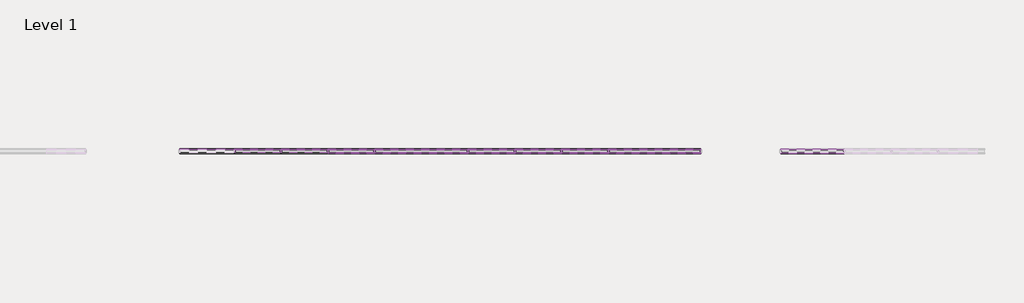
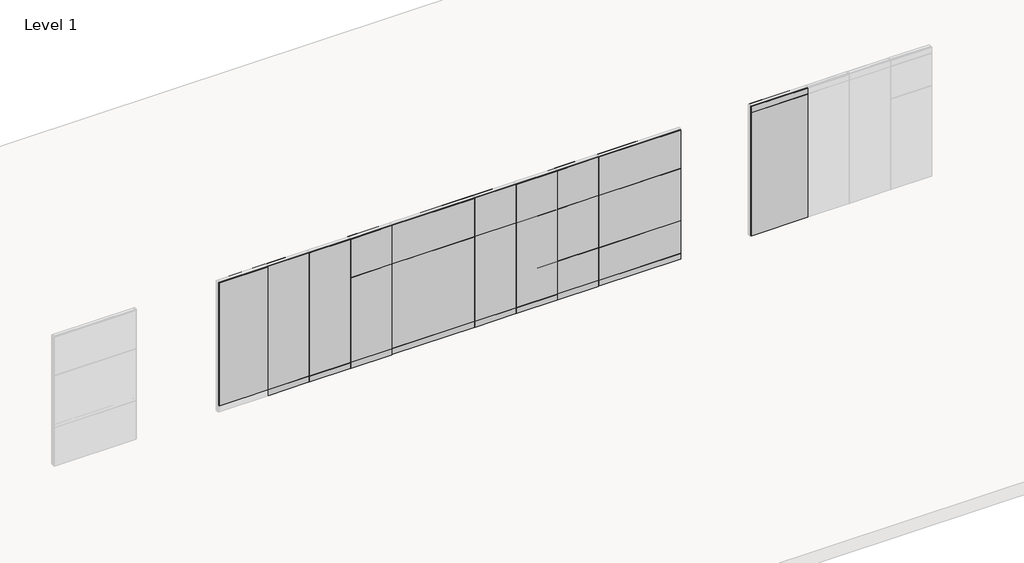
# One storey, part 7 of 22: 106 proxies.
"""IFC4 building model written with IfcOpenShell, lengths in millimetres."""

from ifc_helpers import new_model, si_unit, origin, place, context, project, spatial, transform, mapped, element, save
from components import fascia_teknion_ceiling_and_base_fpb1_658eb9e8, fascia_teknion_ceiling_and_base_fpb1_6ffdd3c4, fascia_teknion_ceiling_and_base_fpb1_e3dcadc1, fascia_teknion_ceiling_and_base_fpb1_b7746e3f, fascia_teknion_ceiling_and_base_fpb1_8b0997c1, fascia_teknion_ceiling_and_base_fpb1_fca0640a, fascia_teknion_ceiling_and_base_fpb1_086ac043, fascia_teknion_ceiling_and_base_fpc_82e6e8aa, fascia_teknion_ceiling_and_base_fpb1_29265a3b, frame_teknion_horizontal_rail_46ee653b, frame_teknion_horizontal_rail_3334b302, frame_teknion_horizontal_rail_5dd37d62, frame_teknion_horizontal_rail_fbfe6c54, frame_teknion_horizontal_rail_cc39d483, full_f94a2816, full_178b5045, level_i_a4eb09b2, level_i_215115a4, level_ii_5838736d, level_ii_c8f04d20, level_ii_2f074b98, level_ii_82d1d981, level_iii_7086e34a, level_iii_17d9b208, monolithic_level_i_c3871bc0, monolithic_level_i_604a00d2, monolithic_level_i_117a5531, segmented_level_i_b619f2b0, segmented_level_i_812e5143, segmented_level_ii_95ed46a7, segmented_monolithic_level_i_a660c2bd, segmented_monolithic_level_i_ac18bccb, segmented_monolithic_level_ii_ef75357c, segmented_monolithic_level_ii_36634c45, working_wall_monolithic_level_i_588f7e64, working_wall_monolithic_level_i_2cfe2bff, working_wall_monolithic_level_iii_599cdcd6

model = new_model("IFC4")

# Units and contexts
model_context = context("Model", 3, world=origin())
ifc_project = project(units=[si_unit("LENGTHUNIT", "METRE", prefix="MILLI")], contexts=[model_context])

# Site, building, storey
site = spatial("IfcSite", under=ifc_project)
building = spatial("IfcBuilding", under=site)
storey = spatial("IfcBuildingStorey", under=building, Name="Level 1", Elevation=0.0)

# Proxies
placement = place(None, origin())
fascia_teknion_ceiling_and_base_fpb1_shape = fascia_teknion_ceiling_and_base_fpb1_658eb9e8(model_context)
element("IfcBuildingElementProxy", 1, Name="Fascia-Teknion-Ceiling_and_Base : FPB1", ObjectType="Fascia-Teknion-Ceiling_and_Base : FPB1", at=placement, inside=storey, context=model_context, shape_type="MappedRepresentation", body=[
    mapped(fascia_teknion_ceiling_and_base_fpb1_shape, transform((-74729.1687444, 1781.3642105, 15.875), x_axis=(1.0, 0.0, 0.0), y_axis=(0.0, 1.0, 0.0), z_axis=(0.0, 0.0, 1.0))),
])
element("IfcBuildingElementProxy", 2, Name="Fascia-Teknion-Ceiling_and_Base : FPB1", ObjectType="Fascia-Teknion-Ceiling_and_Base : FPB1", at=placement, inside=storey, context=model_context, shape_type="MappedRepresentation", body=[
    mapped(fascia_teknion_ceiling_and_base_fpb1_shape, transform((-73814.7687444, 1781.3642105, 15.875), x_axis=(1.0, 0.0, 0.0), y_axis=(0.0, 1.0, 0.0), z_axis=(0.0, 0.0, 1.0))),
])
element("IfcBuildingElementProxy", 3, Name="Fascia-Teknion-Ceiling_and_Base : FPB1", ObjectType="Fascia-Teknion-Ceiling_and_Base : FPB1", at=placement, inside=storey, context=model_context, shape_type="MappedRepresentation", body=[
    mapped(fascia_teknion_ceiling_and_base_fpb1_shape, transform((-72900.3687444, 1781.3642105, 15.875), x_axis=(1.0, 0.0, 0.0), y_axis=(0.0, 1.0, 0.0), z_axis=(0.0, 0.0, 1.0))),
])
element("IfcBuildingElementProxy", 4, Name="Fascia-Teknion-Ceiling_and_Base : FPB1", ObjectType="Fascia-Teknion-Ceiling_and_Base : FPB1", at=placement, inside=storey, context=model_context, shape_type="MappedRepresentation", body=[
    mapped(fascia_teknion_ceiling_and_base_fpb1_shape, transform((-70157.1687444, 1781.3642105, 15.875), x_axis=(1.0, 0.0, 0.0), y_axis=(0.0, 1.0, 0.0), z_axis=(0.0, 0.0, 1.0))),
])
element("IfcBuildingElementProxy", 5, Name="Fascia-Teknion-Ceiling_and_Base : FPB1", ObjectType="Fascia-Teknion-Ceiling_and_Base : FPB1", at=placement, inside=storey, context=model_context, shape_type="MappedRepresentation", body=[
    mapped(fascia_teknion_ceiling_and_base_fpb1_shape, transform((-69242.7687444, 1781.3642105, 15.875), x_axis=(1.0, 0.0, 0.0), y_axis=(0.0, 1.0, 0.0), z_axis=(0.0, 0.0, 1.0))),
])
element("IfcBuildingElementProxy", 6, Name="Fascia-Teknion-Ceiling_and_Base : FPB1", ObjectType="Fascia-Teknion-Ceiling_and_Base : FPB1", at=placement, inside=storey, context=model_context, shape_type="MappedRepresentation", body=[
    mapped(fascia_teknion_ceiling_and_base_fpb1_shape, transform((-68328.3687444, 1781.3642105, 15.875), x_axis=(1.0, 0.0, 0.0), y_axis=(0.0, 1.0, 0.0), z_axis=(0.0, 0.0, 1.0))),
])
fascia_teknion_ceiling_and_base_fpb1_2_shape = fascia_teknion_ceiling_and_base_fpb1_6ffdd3c4(model_context)
element("IfcBuildingElementProxy", 7, Name="Fascia-Teknion-Ceiling_and_Base : FPB1", ObjectType="Fascia-Teknion-Ceiling_and_Base : FPB1", at=placement, inside=storey, context=model_context, shape_type="MappedRepresentation", body=[
    mapped(fascia_teknion_ceiling_and_base_fpb1_2_shape, transform((-71528.7687444, 1781.3642105, 15.875), x_axis=(1.0, 0.0, 0.0), y_axis=(0.0, 1.0, 0.0), z_axis=(0.0, 0.0, 1.0))),
])
fascia_teknion_ceiling_and_base_fpb1_3_shape = fascia_teknion_ceiling_and_base_fpb1_e3dcadc1(model_context)
element("IfcBuildingElementProxy", 8, Name="Fascia-Teknion-Ceiling_and_Base : FPB1", ObjectType="Fascia-Teknion-Ceiling_and_Base : FPB1", at=placement, inside=storey, context=model_context, shape_type="MappedRepresentation", body=[
    mapped(fascia_teknion_ceiling_and_base_fpb1_3_shape, transform((-66963.7636663, 1781.3642105, 15.875), x_axis=(1.0, 0.0, 0.0), y_axis=(0.0, 1.0, 0.0), z_axis=(0.0, 0.0, 1.0))),
])
fascia_teknion_ceiling_and_base_fpb1_4_shape = fascia_teknion_ceiling_and_base_fpb1_b7746e3f(model_context)
element("IfcBuildingElementProxy", 9, Name="Fascia-Teknion-Ceiling_and_Base : FPB1", ObjectType="Fascia-Teknion-Ceiling_and_Base : FPB1", at=placement, inside=storey, context=model_context, shape_type="MappedRepresentation", body=[
    mapped(fascia_teknion_ceiling_and_base_fpb1_4_shape, transform((-66963.7636663, 1843.3402105, 15.875), x_axis=(1.0, 0.0, 0.0), y_axis=(0.0, 1.0, 0.0), z_axis=(0.0, 0.0, 1.0))),
])
fascia_teknion_ceiling_and_base_fpb1_5_shape = fascia_teknion_ceiling_and_base_fpb1_8b0997c1(model_context)
element("IfcBuildingElementProxy", 10, Name="Fascia-Teknion-Ceiling_and_Base : FPB1", ObjectType="Fascia-Teknion-Ceiling_and_Base : FPB1", at=placement, inside=storey, context=model_context, shape_type="MappedRepresentation", body=[
    mapped(fascia_teknion_ceiling_and_base_fpb1_5_shape, transform((-63876.3738225, 1843.3402105, 15.875), x_axis=(1.0, 0.0, 0.0), y_axis=(0.0, 1.0, 0.0), z_axis=(0.0, 0.0, 1.0))),
])
fascia_teknion_ceiling_and_base_fpb1_6_shape = fascia_teknion_ceiling_and_base_fpb1_fca0640a(model_context)
element("IfcBuildingElementProxy", 11, Name="Fascia-Teknion-Ceiling_and_Base : FPB1", ObjectType="Fascia-Teknion-Ceiling_and_Base : FPB1", at=placement, inside=storey, context=model_context, shape_type="MappedRepresentation", body=[
    mapped(fascia_teknion_ceiling_and_base_fpb1_6_shape, transform((-73814.7687444, 1843.3402105, 15.875), x_axis=(1.0, 0.0, 0.0), y_axis=(0.0, 1.0, 0.0), z_axis=(0.0, 0.0, 1.0))),
])
element("IfcBuildingElementProxy", 12, Name="Fascia-Teknion-Ceiling_and_Base : FPB1", ObjectType="Fascia-Teknion-Ceiling_and_Base : FPB1", at=placement, inside=storey, context=model_context, shape_type="MappedRepresentation", body=[
    mapped(fascia_teknion_ceiling_and_base_fpb1_6_shape, transform((-72900.3687444, 1843.3402105, 15.875), x_axis=(1.0, 0.0, 0.0), y_axis=(0.0, 1.0, 0.0), z_axis=(0.0, 0.0, 1.0))),
])
element("IfcBuildingElementProxy", 13, Name="Fascia-Teknion-Ceiling_and_Base : FPB1", ObjectType="Fascia-Teknion-Ceiling_and_Base : FPB1", at=placement, inside=storey, context=model_context, shape_type="MappedRepresentation", body=[
    mapped(fascia_teknion_ceiling_and_base_fpb1_6_shape, transform((-70157.1687444, 1843.3402105, 15.875), x_axis=(1.0, 0.0, 0.0), y_axis=(0.0, 1.0, 0.0), z_axis=(0.0, 0.0, 1.0))),
])
element("IfcBuildingElementProxy", 14, Name="Fascia-Teknion-Ceiling_and_Base : FPB1", ObjectType="Fascia-Teknion-Ceiling_and_Base : FPB1", at=placement, inside=storey, context=model_context, shape_type="MappedRepresentation", body=[
    mapped(fascia_teknion_ceiling_and_base_fpb1_6_shape, transform((-69242.7687444, 1843.3402105, 15.875), x_axis=(1.0, 0.0, 0.0), y_axis=(0.0, 1.0, 0.0), z_axis=(0.0, 0.0, 1.0))),
])
element("IfcBuildingElementProxy", 15, Name="Fascia-Teknion-Ceiling_and_Base : FPB1", ObjectType="Fascia-Teknion-Ceiling_and_Base : FPB1", at=placement, inside=storey, context=model_context, shape_type="MappedRepresentation", body=[
    mapped(fascia_teknion_ceiling_and_base_fpb1_6_shape, transform((-74729.1687444, 1843.3402105, 15.875), x_axis=(1.0, 0.0, 0.0), y_axis=(0.0, 1.0, 0.0), z_axis=(0.0, 0.0, 1.0))),
])
element("IfcBuildingElementProxy", 16, Name="Fascia-Teknion-Ceiling_and_Base : FPB1", ObjectType="Fascia-Teknion-Ceiling_and_Base : FPB1", at=placement, inside=storey, context=model_context, shape_type="MappedRepresentation", body=[
    mapped(fascia_teknion_ceiling_and_base_fpb1_6_shape, transform((-68328.3687444, 1843.3402105, 15.875), x_axis=(1.0, 0.0, 0.0), y_axis=(0.0, 1.0, 0.0), z_axis=(0.0, 0.0, 1.0))),
])
fascia_teknion_ceiling_and_base_fpb1_7_shape = fascia_teknion_ceiling_and_base_fpb1_086ac043(model_context)
element("IfcBuildingElementProxy", 17, Name="Fascia-Teknion-Ceiling_and_Base : FPB1", ObjectType="Fascia-Teknion-Ceiling_and_Base : FPB1", at=placement, inside=storey, context=model_context, shape_type="MappedRepresentation", body=[
    mapped(fascia_teknion_ceiling_and_base_fpb1_7_shape, transform((-71528.7687444, 1843.3402105, 15.875), x_axis=(1.0, 0.0, 0.0), y_axis=(0.0, 1.0, 0.0), z_axis=(0.0, 0.0, 1.0))),
])
fascia_teknion_ceiling_and_base_fpc_shape = fascia_teknion_ceiling_and_base_fpc_82e6e8aa(model_context)
element("IfcBuildingElementProxy", 18, Name="Fascia-Teknion-Ceiling_and_Base : FPC", ObjectType="Fascia-Teknion-Ceiling_and_Base : FPC", at=placement, inside=storey, context=model_context, shape_type="MappedRepresentation", body=[
    mapped(fascia_teknion_ceiling_and_base_fpc_shape, transform((-63876.3738225, 1781.3642105, 2900.045), x_axis=(1.0, 0.0, 0.0), y_axis=(0.0, 1.0, 0.0), z_axis=(0.0, 0.0, 1.0))),
])
element("IfcBuildingElementProxy", 19, Name="Fascia-Teknion-Ceiling_and_Base : FPC", ObjectType="Fascia-Teknion-Ceiling_and_Base : FPC", at=placement, inside=storey, context=model_context, shape_type="MappedRepresentation", body=[
    mapped(fascia_teknion_ceiling_and_base_fpb1_4_shape, transform((-66963.7636663, 1843.3402105, 2950.845), x_axis=(1.0, 0.0, 0.0), y_axis=(0.0, 1.0, 0.0), z_axis=(0.0, 0.0, 1.0))),
])
element("IfcBuildingElementProxy", 20, Name="Fascia-Teknion-Ceiling_and_Base : FPC", ObjectType="Fascia-Teknion-Ceiling_and_Base : FPC", at=placement, inside=storey, context=model_context, shape_type="MappedRepresentation", body=[
    mapped(fascia_teknion_ceiling_and_base_fpb1_5_shape, transform((-63876.3738225, 1843.3402105, 2950.845), x_axis=(1.0, 0.0, 0.0), y_axis=(0.0, 1.0, 0.0), z_axis=(0.0, 0.0, 1.0))),
])
element("IfcBuildingElementProxy", 21, Name="Fascia-Teknion-Ceiling_and_Base : FPC", ObjectType="Fascia-Teknion-Ceiling_and_Base : FPC", at=placement, inside=storey, context=model_context, shape_type="MappedRepresentation", body=[
    mapped(fascia_teknion_ceiling_and_base_fpb1_6_shape, transform((-73814.7687444, 1843.3402105, 2950.845), x_axis=(1.0, 0.0, 0.0), y_axis=(0.0, 1.0, 0.0), z_axis=(0.0, 0.0, 1.0))),
])
element("IfcBuildingElementProxy", 22, Name="Fascia-Teknion-Ceiling_and_Base : FPC", ObjectType="Fascia-Teknion-Ceiling_and_Base : FPC", at=placement, inside=storey, context=model_context, shape_type="MappedRepresentation", body=[
    mapped(fascia_teknion_ceiling_and_base_fpb1_6_shape, transform((-72900.3687444, 1843.3402105, 2950.845), x_axis=(1.0, 0.0, 0.0), y_axis=(0.0, 1.0, 0.0), z_axis=(0.0, 0.0, 1.0))),
])
element("IfcBuildingElementProxy", 23, Name="Fascia-Teknion-Ceiling_and_Base : FPC", ObjectType="Fascia-Teknion-Ceiling_and_Base : FPC", at=placement, inside=storey, context=model_context, shape_type="MappedRepresentation", body=[
    mapped(fascia_teknion_ceiling_and_base_fpb1_6_shape, transform((-70157.1687444, 1843.3402105, 2950.845), x_axis=(1.0, 0.0, 0.0), y_axis=(0.0, 1.0, 0.0), z_axis=(0.0, 0.0, 1.0))),
])
element("IfcBuildingElementProxy", 24, Name="Fascia-Teknion-Ceiling_and_Base : FPC", ObjectType="Fascia-Teknion-Ceiling_and_Base : FPC", at=placement, inside=storey, context=model_context, shape_type="MappedRepresentation", body=[
    mapped(fascia_teknion_ceiling_and_base_fpb1_6_shape, transform((-69242.7687444, 1843.3402105, 2950.845), x_axis=(1.0, 0.0, 0.0), y_axis=(0.0, 1.0, 0.0), z_axis=(0.0, 0.0, 1.0))),
])
element("IfcBuildingElementProxy", 25, Name="Fascia-Teknion-Ceiling_and_Base : FPC", ObjectType="Fascia-Teknion-Ceiling_and_Base : FPC", at=placement, inside=storey, context=model_context, shape_type="MappedRepresentation", body=[
    mapped(fascia_teknion_ceiling_and_base_fpb1_6_shape, transform((-74729.1687444, 1843.3402105, 2950.845), x_axis=(1.0, 0.0, 0.0), y_axis=(0.0, 1.0, 0.0), z_axis=(0.0, 0.0, 1.0))),
])
element("IfcBuildingElementProxy", 26, Name="Fascia-Teknion-Ceiling_and_Base : FPC", ObjectType="Fascia-Teknion-Ceiling_and_Base : FPC", at=placement, inside=storey, context=model_context, shape_type="MappedRepresentation", body=[
    mapped(fascia_teknion_ceiling_and_base_fpb1_6_shape, transform((-68328.3687444, 1843.3402105, 2950.845), x_axis=(1.0, 0.0, 0.0), y_axis=(0.0, 1.0, 0.0), z_axis=(0.0, 0.0, 1.0))),
])
element("IfcBuildingElementProxy", 27, Name="Fascia-Teknion-Ceiling_and_Base : FPC", ObjectType="Fascia-Teknion-Ceiling_and_Base : FPC", at=placement, inside=storey, context=model_context, shape_type="MappedRepresentation", body=[
    mapped(fascia_teknion_ceiling_and_base_fpb1_7_shape, transform((-71528.7687444, 1843.3402105, 2950.845), x_axis=(1.0, 0.0, 0.0), y_axis=(0.0, 1.0, 0.0), z_axis=(0.0, 0.0, 1.0))),
])
fascia_teknion_ceiling_and_base_fpb1_8_shape = fascia_teknion_ceiling_and_base_fpb1_29265a3b(model_context)
element("IfcBuildingElementProxy", 28, Name="Fascia-Teknion-Ceiling_and_Base : FPC", ObjectType="Fascia-Teknion-Ceiling_and_Base : FPC", at=placement, inside=storey, context=model_context, shape_type="MappedRepresentation", body=[
    mapped(fascia_teknion_ceiling_and_base_fpb1_8_shape, transform((-75725.4738225, 1843.3402105, 2950.845), x_axis=(1.0, 0.0, 0.0), y_axis=(0.0, 1.0, 0.0), z_axis=(0.0, 0.0, 1.0))),
])
frame_teknion_horizontal_rail_shape = frame_teknion_horizontal_rail_46ee653b(model_context)
element("IfcBuildingElementProxy", 29, Name="Frame-Teknion-Horizontal_Rail : FPKK", ObjectType="Frame-Teknion-Horizontal_Rail : FPKK", at=placement, inside=storey, context=model_context, shape_type="MappedRepresentation", body=[
    mapped(frame_teknion_horizontal_rail_shape, transform((-74729.1687444, 1812.3522105, 2949.1305), x_axis=(1.0, 0.0, 0.0), y_axis=(0.0, 1.0, 0.0), z_axis=(0.0, 0.0, 1.0))),
])
element("IfcBuildingElementProxy", 30, Name="Frame-Teknion-Horizontal_Rail : FPKK", ObjectType="Frame-Teknion-Horizontal_Rail : FPKK", at=placement, inside=storey, context=model_context, shape_type="MappedRepresentation", body=[
    mapped(frame_teknion_horizontal_rail_shape, transform((-74729.1687444, 1812.3522105, 151.257), x_axis=(1.0, 0.0, 0.0), y_axis=(0.0, 1.0, 0.0), z_axis=(0.0, 0.0, 1.0))),
])
element("IfcBuildingElementProxy", 31, Name="Frame-Teknion-Horizontal_Rail : FPKK", ObjectType="Frame-Teknion-Horizontal_Rail : FPKK", at=placement, inside=storey, context=model_context, shape_type="MappedRepresentation", body=[
    mapped(frame_teknion_horizontal_rail_shape, transform((-73814.7687444, 1812.3522105, 2949.1305), x_axis=(1.0, 0.0, 0.0), y_axis=(0.0, 1.0, 0.0), z_axis=(0.0, 0.0, 1.0))),
])
element("IfcBuildingElementProxy", 32, Name="Frame-Teknion-Horizontal_Rail : FPKK", ObjectType="Frame-Teknion-Horizontal_Rail : FPKK", at=placement, inside=storey, context=model_context, shape_type="MappedRepresentation", body=[
    mapped(frame_teknion_horizontal_rail_shape, transform((-73814.7687444, 1812.3522105, 151.257), x_axis=(1.0, 0.0, 0.0), y_axis=(0.0, 1.0, 0.0), z_axis=(0.0, 0.0, 1.0))),
])
element("IfcBuildingElementProxy", 33, Name="Frame-Teknion-Horizontal_Rail : FPKK", ObjectType="Frame-Teknion-Horizontal_Rail : FPKK", at=placement, inside=storey, context=model_context, shape_type="MappedRepresentation", body=[
    mapped(frame_teknion_horizontal_rail_shape, transform((-72900.3687444, 1812.3522105, 2949.1305), x_axis=(1.0, 0.0, 0.0), y_axis=(0.0, 1.0, 0.0), z_axis=(0.0, 0.0, 1.0))),
])
element("IfcBuildingElementProxy", 34, Name="Frame-Teknion-Horizontal_Rail : FPKK", ObjectType="Frame-Teknion-Horizontal_Rail : FPKK", at=placement, inside=storey, context=model_context, shape_type="MappedRepresentation", body=[
    mapped(frame_teknion_horizontal_rail_shape, transform((-72900.3687444, 1812.3522105, 151.257), x_axis=(1.0, 0.0, 0.0), y_axis=(0.0, 1.0, 0.0), z_axis=(0.0, 0.0, 1.0))),
])
element("IfcBuildingElementProxy", 35, Name="Frame-Teknion-Horizontal_Rail : FPKK", ObjectType="Frame-Teknion-Horizontal_Rail : FPKK", at=placement, inside=storey, context=model_context, shape_type="MappedRepresentation", body=[
    mapped(frame_teknion_horizontal_rail_shape, transform((-70157.1687444, 1812.3522105, 2949.1305), x_axis=(1.0, 0.0, 0.0), y_axis=(0.0, 1.0, 0.0), z_axis=(0.0, 0.0, 1.0))),
])
element("IfcBuildingElementProxy", 36, Name="Frame-Teknion-Horizontal_Rail : FPKK", ObjectType="Frame-Teknion-Horizontal_Rail : FPKK", at=placement, inside=storey, context=model_context, shape_type="MappedRepresentation", body=[
    mapped(frame_teknion_horizontal_rail_shape, transform((-70157.1687444, 1812.3522105, 151.257), x_axis=(1.0, 0.0, 0.0), y_axis=(0.0, 1.0, 0.0), z_axis=(0.0, 0.0, 1.0))),
])
element("IfcBuildingElementProxy", 37, Name="Frame-Teknion-Horizontal_Rail : FPKK", ObjectType="Frame-Teknion-Horizontal_Rail : FPKK", at=placement, inside=storey, context=model_context, shape_type="MappedRepresentation", body=[
    mapped(frame_teknion_horizontal_rail_shape, transform((-69242.7687444, 1812.3522105, 2949.1305), x_axis=(1.0, 0.0, 0.0), y_axis=(0.0, 1.0, 0.0), z_axis=(0.0, 0.0, 1.0))),
])
element("IfcBuildingElementProxy", 38, Name="Frame-Teknion-Horizontal_Rail : FPKK", ObjectType="Frame-Teknion-Horizontal_Rail : FPKK", at=placement, inside=storey, context=model_context, shape_type="MappedRepresentation", body=[
    mapped(frame_teknion_horizontal_rail_shape, transform((-69242.7687444, 1812.3522105, 151.257), x_axis=(1.0, 0.0, 0.0), y_axis=(0.0, 1.0, 0.0), z_axis=(0.0, 0.0, 1.0))),
])
element("IfcBuildingElementProxy", 39, Name="Frame-Teknion-Horizontal_Rail : FPKK", ObjectType="Frame-Teknion-Horizontal_Rail : FPKK", at=placement, inside=storey, context=model_context, shape_type="MappedRepresentation", body=[
    mapped(frame_teknion_horizontal_rail_shape, transform((-68328.3687444, 1812.3522105, 2949.1305), x_axis=(1.0, 0.0, 0.0), y_axis=(0.0, 1.0, 0.0), z_axis=(0.0, 0.0, 1.0))),
])
element("IfcBuildingElementProxy", 40, Name="Frame-Teknion-Horizontal_Rail : FPKK", ObjectType="Frame-Teknion-Horizontal_Rail : FPKK", at=placement, inside=storey, context=model_context, shape_type="MappedRepresentation", body=[
    mapped(frame_teknion_horizontal_rail_shape, transform((-68328.3687444, 1812.3522105, 151.257), x_axis=(1.0, 0.0, 0.0), y_axis=(0.0, 1.0, 0.0), z_axis=(0.0, 0.0, 1.0))),
])
element("IfcBuildingElementProxy", 41, Name="Frame-Teknion-Horizontal_Rail : FPKK", ObjectType="Frame-Teknion-Horizontal_Rail : FPKK", at=placement, inside=storey, context=model_context, shape_type="MappedRepresentation", body=[
    mapped(frame_teknion_horizontal_rail_shape, transform((-74729.1687444, 1812.3522105, 2136.775), x_axis=(1.0, 0.0, 0.0), y_axis=(0.0, 1.0, 0.0), z_axis=(0.0, 0.0, 1.0))),
])
element("IfcBuildingElementProxy", 42, Name="Frame-Teknion-Horizontal_Rail : FPKK", ObjectType="Frame-Teknion-Horizontal_Rail : FPKK", at=placement, inside=storey, context=model_context, shape_type="MappedRepresentation", body=[
    mapped(frame_teknion_horizontal_rail_shape, transform((-73814.7687444, 1812.3522105, 917.575), x_axis=(1.0, 0.0, 0.0), y_axis=(0.0, 1.0, 0.0), z_axis=(0.0, 0.0, 1.0))),
])
element("IfcBuildingElementProxy", 43, Name="Frame-Teknion-Horizontal_Rail : FPKK", ObjectType="Frame-Teknion-Horizontal_Rail : FPKK", at=placement, inside=storey, context=model_context, shape_type="MappedRepresentation", body=[
    mapped(frame_teknion_horizontal_rail_shape, transform((-73814.7687444, 1812.3522105, 2136.775), x_axis=(1.0, 0.0, 0.0), y_axis=(0.0, 1.0, 0.0), z_axis=(0.0, 0.0, 1.0))),
])
element("IfcBuildingElementProxy", 44, Name="Frame-Teknion-Horizontal_Rail : FPKK", ObjectType="Frame-Teknion-Horizontal_Rail : FPKK", at=placement, inside=storey, context=model_context, shape_type="MappedRepresentation", body=[
    mapped(frame_teknion_horizontal_rail_shape, transform((-72900.3687444, 1812.3522105, 2136.775), x_axis=(1.0, 0.0, 0.0), y_axis=(0.0, 1.0, 0.0), z_axis=(0.0, 0.0, 1.0))),
])
element("IfcBuildingElementProxy", 45, Name="Frame-Teknion-Horizontal_Rail : FPKK", ObjectType="Frame-Teknion-Horizontal_Rail : FPKK", at=placement, inside=storey, context=model_context, shape_type="MappedRepresentation", body=[
    mapped(frame_teknion_horizontal_rail_shape, transform((-70157.1687444, 1812.3522105, 917.575), x_axis=(1.0, 0.0, 0.0), y_axis=(0.0, 1.0, 0.0), z_axis=(0.0, 0.0, 1.0))),
])
element("IfcBuildingElementProxy", 46, Name="Frame-Teknion-Horizontal_Rail : FPKK", ObjectType="Frame-Teknion-Horizontal_Rail : FPKK", at=placement, inside=storey, context=model_context, shape_type="MappedRepresentation", body=[
    mapped(frame_teknion_horizontal_rail_shape, transform((-70157.1687444, 1812.3522105, 2136.775), x_axis=(1.0, 0.0, 0.0), y_axis=(0.0, 1.0, 0.0), z_axis=(0.0, 0.0, 1.0))),
])
element("IfcBuildingElementProxy", 47, Name="Frame-Teknion-Horizontal_Rail : FPKK", ObjectType="Frame-Teknion-Horizontal_Rail : FPKK", at=placement, inside=storey, context=model_context, shape_type="MappedRepresentation", body=[
    mapped(frame_teknion_horizontal_rail_shape, transform((-69242.7687444, 1812.3522105, 917.575), x_axis=(1.0, 0.0, 0.0), y_axis=(0.0, 1.0, 0.0), z_axis=(0.0, 0.0, 1.0))),
])
element("IfcBuildingElementProxy", 48, Name="Frame-Teknion-Horizontal_Rail : FPKK", ObjectType="Frame-Teknion-Horizontal_Rail : FPKK", at=placement, inside=storey, context=model_context, shape_type="MappedRepresentation", body=[
    mapped(frame_teknion_horizontal_rail_shape, transform((-69242.7687444, 1812.3522105, 2136.775), x_axis=(1.0, 0.0, 0.0), y_axis=(0.0, 1.0, 0.0), z_axis=(0.0, 0.0, 1.0))),
])
element("IfcBuildingElementProxy", 49, Name="Frame-Teknion-Horizontal_Rail : FPKK", ObjectType="Frame-Teknion-Horizontal_Rail : FPKK", at=placement, inside=storey, context=model_context, shape_type="MappedRepresentation", body=[
    mapped(frame_teknion_horizontal_rail_shape, transform((-68328.3687444, 1812.3522105, 917.575), x_axis=(1.0, 0.0, 0.0), y_axis=(0.0, 1.0, 0.0), z_axis=(0.0, 0.0, 1.0))),
])
element("IfcBuildingElementProxy", 50, Name="Frame-Teknion-Horizontal_Rail : FPKK", ObjectType="Frame-Teknion-Horizontal_Rail : FPKK", at=placement, inside=storey, context=model_context, shape_type="MappedRepresentation", body=[
    mapped(frame_teknion_horizontal_rail_shape, transform((-68328.3687444, 1812.3522105, 2136.775), x_axis=(1.0, 0.0, 0.0), y_axis=(0.0, 1.0, 0.0), z_axis=(0.0, 0.0, 1.0))),
])
element("IfcBuildingElementProxy", 51, Name="Frame-Teknion-Horizontal_Rail : FPKK", ObjectType="Frame-Teknion-Horizontal_Rail : FPKK", at=placement, inside=storey, context=model_context, shape_type="MappedRepresentation", body=[
    mapped(frame_teknion_horizontal_rail_shape, transform((-74729.1687444, 1812.3522105, 100.457), x_axis=(1.0, 0.0, 0.0), y_axis=(0.0, 1.0, 0.0), z_axis=(0.0, 0.0, 1.0))),
])
element("IfcBuildingElementProxy", 52, Name="Frame-Teknion-Horizontal_Rail : FPKK", ObjectType="Frame-Teknion-Horizontal_Rail : FPKK", at=placement, inside=storey, context=model_context, shape_type="MappedRepresentation", body=[
    mapped(frame_teknion_horizontal_rail_shape, transform((-73814.7687444, 1812.3522105, 100.457), x_axis=(1.0, 0.0, 0.0), y_axis=(0.0, 1.0, 0.0), z_axis=(0.0, 0.0, 1.0))),
])
element("IfcBuildingElementProxy", 53, Name="Frame-Teknion-Horizontal_Rail : FPKK", ObjectType="Frame-Teknion-Horizontal_Rail : FPKK", at=placement, inside=storey, context=model_context, shape_type="MappedRepresentation", body=[
    mapped(frame_teknion_horizontal_rail_shape, transform((-72900.3687444, 1812.3522105, 100.457), x_axis=(1.0, 0.0, 0.0), y_axis=(0.0, 1.0, 0.0), z_axis=(0.0, 0.0, 1.0))),
])
element("IfcBuildingElementProxy", 54, Name="Frame-Teknion-Horizontal_Rail : FPKK", ObjectType="Frame-Teknion-Horizontal_Rail : FPKK", at=placement, inside=storey, context=model_context, shape_type="MappedRepresentation", body=[
    mapped(frame_teknion_horizontal_rail_shape, transform((-70157.1687444, 1812.3522105, 100.457), x_axis=(1.0, 0.0, 0.0), y_axis=(0.0, 1.0, 0.0), z_axis=(0.0, 0.0, 1.0))),
])
element("IfcBuildingElementProxy", 55, Name="Frame-Teknion-Horizontal_Rail : FPKK", ObjectType="Frame-Teknion-Horizontal_Rail : FPKK", at=placement, inside=storey, context=model_context, shape_type="MappedRepresentation", body=[
    mapped(frame_teknion_horizontal_rail_shape, transform((-69242.7687444, 1812.3522105, 100.457), x_axis=(1.0, 0.0, 0.0), y_axis=(0.0, 1.0, 0.0), z_axis=(0.0, 0.0, 1.0))),
])
element("IfcBuildingElementProxy", 56, Name="Frame-Teknion-Horizontal_Rail : FPKK", ObjectType="Frame-Teknion-Horizontal_Rail : FPKK", at=placement, inside=storey, context=model_context, shape_type="MappedRepresentation", body=[
    mapped(frame_teknion_horizontal_rail_shape, transform((-68328.3687444, 1812.3522105, 100.457), x_axis=(1.0, 0.0, 0.0), y_axis=(0.0, 1.0, 0.0), z_axis=(0.0, 0.0, 1.0))),
])
frame_teknion_horizontal_rail_2_shape = frame_teknion_horizontal_rail_3334b302(model_context)
element("IfcBuildingElementProxy", 57, Name="Frame-Teknion-Horizontal_Rail : FPKK", ObjectType="Frame-Teknion-Horizontal_Rail : FPKK", at=placement, inside=storey, context=model_context, shape_type="MappedRepresentation", body=[
    mapped(frame_teknion_horizontal_rail_2_shape, transform((-63876.3738225, 1812.3522105, 100.457), x_axis=(1.0, 0.0, 0.0), y_axis=(0.0, 1.0, 0.0), z_axis=(0.0, 0.0, 1.0))),
])
element("IfcBuildingElementProxy", 58, Name="Frame-Teknion-Horizontal_Rail : FPKK", ObjectType="Frame-Teknion-Horizontal_Rail : FPKK", at=placement, inside=storey, context=model_context, shape_type="MappedRepresentation", body=[
    mapped(frame_teknion_horizontal_rail_2_shape, transform((-63876.3738225, 1812.3522105, 2898.3305), x_axis=(1.0, 0.0, 0.0), y_axis=(0.0, 1.0, 0.0), z_axis=(0.0, 0.0, 1.0))),
])
frame_teknion_horizontal_rail_3_shape = frame_teknion_horizontal_rail_5dd37d62(model_context)
element("IfcBuildingElementProxy", 59, Name="Frame-Teknion-Horizontal_Rail : FPKK", ObjectType="Frame-Teknion-Horizontal_Rail : FPKK", at=placement, inside=storey, context=model_context, shape_type="MappedRepresentation", body=[
    mapped(frame_teknion_horizontal_rail_3_shape, transform((-71528.7687444, 1812.3522105, 2949.1305), x_axis=(1.0, 0.0, 0.0), y_axis=(0.0, 1.0, 0.0), z_axis=(0.0, 0.0, 1.0))),
])
element("IfcBuildingElementProxy", 60, Name="Frame-Teknion-Horizontal_Rail : FPKK", ObjectType="Frame-Teknion-Horizontal_Rail : FPKK", at=placement, inside=storey, context=model_context, shape_type="MappedRepresentation", body=[
    mapped(frame_teknion_horizontal_rail_3_shape, transform((-71528.7687444, 1812.3522105, 151.257), x_axis=(1.0, 0.0, 0.0), y_axis=(0.0, 1.0, 0.0), z_axis=(0.0, 0.0, 1.0))),
])
element("IfcBuildingElementProxy", 61, Name="Frame-Teknion-Horizontal_Rail : FPKK", ObjectType="Frame-Teknion-Horizontal_Rail : FPKK", at=placement, inside=storey, context=model_context, shape_type="MappedRepresentation", body=[
    mapped(frame_teknion_horizontal_rail_3_shape, transform((-71528.7687444, 1812.3522105, 2136.775), x_axis=(1.0, 0.0, 0.0), y_axis=(0.0, 1.0, 0.0), z_axis=(0.0, 0.0, 1.0))),
])
element("IfcBuildingElementProxy", 62, Name="Frame-Teknion-Horizontal_Rail : FPKK", ObjectType="Frame-Teknion-Horizontal_Rail : FPKK", at=placement, inside=storey, context=model_context, shape_type="MappedRepresentation", body=[
    mapped(frame_teknion_horizontal_rail_3_shape, transform((-71528.7687444, 1812.3522105, 100.457), x_axis=(1.0, 0.0, 0.0), y_axis=(0.0, 1.0, 0.0), z_axis=(0.0, 0.0, 1.0))),
])
frame_teknion_horizontal_rail_4_shape = frame_teknion_horizontal_rail_fbfe6c54(model_context)
element("IfcBuildingElementProxy", 63, Name="Frame-Teknion-Horizontal_Rail : FPKK", ObjectType="Frame-Teknion-Horizontal_Rail : FPKK", at=placement, inside=storey, context=model_context, shape_type="MappedRepresentation", body=[
    mapped(frame_teknion_horizontal_rail_4_shape, transform((-66963.7636663, 1812.3522105, 2949.1305), x_axis=(1.0, 0.0, 0.0), y_axis=(0.0, 1.0, 0.0), z_axis=(0.0, 0.0, 1.0))),
])
element("IfcBuildingElementProxy", 64, Name="Frame-Teknion-Horizontal_Rail : FPKK", ObjectType="Frame-Teknion-Horizontal_Rail : FPKK", at=placement, inside=storey, context=model_context, shape_type="MappedRepresentation", body=[
    mapped(frame_teknion_horizontal_rail_4_shape, transform((-66963.7636663, 1812.3522105, 151.257), x_axis=(1.0, 0.0, 0.0), y_axis=(0.0, 1.0, 0.0), z_axis=(0.0, 0.0, 1.0))),
])
element("IfcBuildingElementProxy", 65, Name="Frame-Teknion-Horizontal_Rail : FPKK", ObjectType="Frame-Teknion-Horizontal_Rail : FPKK", at=placement, inside=storey, context=model_context, shape_type="MappedRepresentation", body=[
    mapped(frame_teknion_horizontal_rail_4_shape, transform((-66963.7636663, 1812.3522105, 917.575), x_axis=(1.0, 0.0, 0.0), y_axis=(0.0, 1.0, 0.0), z_axis=(0.0, 0.0, 1.0))),
])
element("IfcBuildingElementProxy", 66, Name="Frame-Teknion-Horizontal_Rail : FPKK", ObjectType="Frame-Teknion-Horizontal_Rail : FPKK", at=placement, inside=storey, context=model_context, shape_type="MappedRepresentation", body=[
    mapped(frame_teknion_horizontal_rail_4_shape, transform((-66963.7636663, 1812.3522105, 2136.775), x_axis=(1.0, 0.0, 0.0), y_axis=(0.0, 1.0, 0.0), z_axis=(0.0, 0.0, 1.0))),
])
element("IfcBuildingElementProxy", 67, Name="Frame-Teknion-Horizontal_Rail : FPKK", ObjectType="Frame-Teknion-Horizontal_Rail : FPKK", at=placement, inside=storey, context=model_context, shape_type="MappedRepresentation", body=[
    mapped(frame_teknion_horizontal_rail_4_shape, transform((-66963.7636663, 1812.3522105, 100.457), x_axis=(1.0, 0.0, 0.0), y_axis=(0.0, 1.0, 0.0), z_axis=(0.0, 0.0, 1.0))),
])
frame_teknion_horizontal_rail_5_shape = frame_teknion_horizontal_rail_cc39d483(model_context)
element("IfcBuildingElementProxy", 68, Name="Frame-Teknion-Horizontal_Rail : FPKK", ObjectType="Frame-Teknion-Horizontal_Rail : FPKK", at=placement, inside=storey, context=model_context, shape_type="MappedRepresentation", body=[
    mapped(frame_teknion_horizontal_rail_5_shape, transform((-75725.4738225, 1812.3522105, 100.457), x_axis=(1.0, 0.0, 0.0), y_axis=(0.0, 1.0, 0.0), z_axis=(0.0, 0.0, 1.0))),
])
full_shape = full_f94a2816(model_context)
element("IfcBuildingElementProxy", 69, Name="Panel-Fascia-Teknion-Altos-Standard : Full", ObjectType="Panel-Fascia-Teknion-Altos-Standard : Full", at=placement, inside=storey, context=model_context, shape_type="MappedRepresentation", body=[
    mapped(full_shape, transform((-72900.3687444, 1852.8652105, 100.457), x_axis=(1.0, 0.0, 0.0), y_axis=(0.0, 1.0, 0.0), z_axis=(0.0, 0.0, 1.0))),
])
element("IfcBuildingElementProxy", 70, Name="Panel-Fascia-Teknion-Altos-Standard : Full", ObjectType="Panel-Fascia-Teknion-Altos-Standard : Full", at=placement, inside=storey, context=model_context, shape_type="MappedRepresentation", body=[
    mapped(full_shape, transform((-69242.7687444, 1852.8652105, 100.457), x_axis=(1.0, 0.0, 0.0), y_axis=(0.0, 1.0, 0.0), z_axis=(0.0, 0.0, 1.0))),
])
full_2_shape = full_178b5045(model_context)
element("IfcBuildingElementProxy", 71, Name="Panel-Fascia-Teknion-Altos-Standard : Full", ObjectType="Panel-Fascia-Teknion-Altos-Standard : Full", at=placement, inside=storey, context=model_context, shape_type="MappedRepresentation", body=[
    mapped(full_2_shape, transform((-75725.4738225, 1852.8652105, 100.457), x_axis=(1.0, 0.0, 0.0), y_axis=(0.0, 1.0, 0.0), z_axis=(0.0, 0.0, 1.0))),
])
level_i_shape = level_i_a4eb09b2(model_context)
element("IfcBuildingElementProxy", 72, Name="Panel-Fascia-Teknion-Altos-Standard : Level I", ObjectType="Panel-Fascia-Teknion-Altos-Standard : Level I", at=placement, inside=storey, context=model_context, shape_type="MappedRepresentation", body=[
    mapped(level_i_shape, transform((-66963.7636663, 1852.8652105, 100.457), x_axis=(1.0, 0.0, 0.0), y_axis=(0.0, 1.0, 0.0), z_axis=(0.0, 0.0, 1.0))),
])
level_i_2_shape = level_i_215115a4(model_context)
element("IfcBuildingElementProxy", 73, Name="Panel-Fascia-Teknion-Altos-Standard : Level I", ObjectType="Panel-Fascia-Teknion-Altos-Standard : Level I", at=placement, inside=storey, context=model_context, shape_type="MappedRepresentation", body=[
    mapped(level_i_2_shape, transform((-73814.7687444, 1852.8652105, 100.457), x_axis=(1.0, 0.0, 0.0), y_axis=(0.0, 1.0, 0.0), z_axis=(0.0, 0.0, 1.0))),
])
element("IfcBuildingElementProxy", 74, Name="Panel-Fascia-Teknion-Altos-Standard : Level I", ObjectType="Panel-Fascia-Teknion-Altos-Standard : Level I", at=placement, inside=storey, context=model_context, shape_type="MappedRepresentation", body=[
    mapped(level_i_2_shape, transform((-70157.1687444, 1852.8652105, 100.457), x_axis=(1.0, 0.0, 0.0), y_axis=(0.0, 1.0, 0.0), z_axis=(0.0, 0.0, 1.0))),
])
level_ii_shape = level_ii_5838736d(model_context)
element("IfcBuildingElementProxy", 75, Name="Panel-Fascia-Teknion-Altos-Standard : Level II", ObjectType="Panel-Fascia-Teknion-Altos-Standard : Level II", at=placement, inside=storey, context=model_context, shape_type="MappedRepresentation", body=[
    mapped(level_ii_shape, transform((-73814.7687444, 1852.8652105, 917.575), x_axis=(1.0, 0.0, 0.0), y_axis=(0.0, 1.0, 0.0), z_axis=(0.0, 0.0, 1.0))),
])
element("IfcBuildingElementProxy", 76, Name="Panel-Fascia-Teknion-Altos-Standard : Level II", ObjectType="Panel-Fascia-Teknion-Altos-Standard : Level II", at=placement, inside=storey, context=model_context, shape_type="MappedRepresentation", body=[
    mapped(level_ii_shape, transform((-70157.1687444, 1852.8652105, 917.575), x_axis=(1.0, 0.0, 0.0), y_axis=(0.0, 1.0, 0.0), z_axis=(0.0, 0.0, 1.0))),
])
level_ii_2_shape = level_ii_c8f04d20(model_context)
element("IfcBuildingElementProxy", 77, Name="Panel-Fascia-Teknion-Altos-Standard : Level II", ObjectType="Panel-Fascia-Teknion-Altos-Standard : Level II", at=placement, inside=storey, context=model_context, shape_type="MappedRepresentation", body=[
    mapped(level_ii_2_shape, transform((-68328.3687444, 1771.8392105, 917.575), x_axis=(1.0, 0.0, 0.0), y_axis=(0.0, 1.0, 0.0), z_axis=(0.0, 0.0, 1.0))),
])
element("IfcBuildingElementProxy", 78, Name="Panel-Fascia-Teknion-Altos-Standard : Level II", ObjectType="Panel-Fascia-Teknion-Altos-Standard : Level II", at=placement, inside=storey, context=model_context, shape_type="MappedRepresentation", body=[
    mapped(level_ii_2_shape, transform((-69242.7687444, 1771.8392105, 917.575), x_axis=(1.0, 0.0, 0.0), y_axis=(0.0, 1.0, 0.0), z_axis=(0.0, 0.0, 1.0))),
])
level_ii_3_shape = level_ii_2f074b98(model_context)
element("IfcBuildingElementProxy", 79, Name="Panel-Fascia-Teknion-Altos-Standard : Level II", ObjectType="Panel-Fascia-Teknion-Altos-Standard : Level II", at=placement, inside=storey, context=model_context, shape_type="MappedRepresentation", body=[
    mapped(level_ii_3_shape, transform((-66963.7636663, 1771.8392105, 917.575), x_axis=(1.0, 0.0, 0.0), y_axis=(0.0, 1.0, 0.0), z_axis=(0.0, 0.0, 1.0))),
])
level_ii_4_shape = level_ii_82d1d981(model_context)
element("IfcBuildingElementProxy", 80, Name="Panel-Fascia-Teknion-Altos-Standard : Level II", ObjectType="Panel-Fascia-Teknion-Altos-Standard : Level II", at=placement, inside=storey, context=model_context, shape_type="MappedRepresentation", body=[
    mapped(level_ii_4_shape, transform((-66963.7636663, 1852.8652105, 917.575), x_axis=(1.0, 0.0, 0.0), y_axis=(0.0, 1.0, 0.0), z_axis=(0.0, 0.0, 1.0))),
])
level_iii_shape = level_iii_7086e34a(model_context)
element("IfcBuildingElementProxy", 81, Name="Panel-Fascia-Teknion-Altos-Standard : Level III", ObjectType="Panel-Fascia-Teknion-Altos-Standard : Level III", at=placement, inside=storey, context=model_context, shape_type="MappedRepresentation", body=[
    mapped(level_iii_shape, transform((-66963.7636663, 1852.8652105, 2136.775), x_axis=(1.0, 0.0, 0.0), y_axis=(0.0, 1.0, 0.0), z_axis=(0.0, 0.0, 1.0))),
])
level_iii_2_shape = level_iii_17d9b208(model_context)
element("IfcBuildingElementProxy", 82, Name="Panel-Fascia-Teknion-Altos-Standard : Level III", ObjectType="Panel-Fascia-Teknion-Altos-Standard : Level III", at=placement, inside=storey, context=model_context, shape_type="MappedRepresentation", body=[
    mapped(level_iii_2_shape, transform((-73814.7687444, 1852.8652105, 2136.775), x_axis=(1.0, 0.0, 0.0), y_axis=(0.0, 1.0, 0.0), z_axis=(0.0, 0.0, 1.0))),
])
element("IfcBuildingElementProxy", 83, Name="Panel-Fascia-Teknion-Altos-Standard : Level III", ObjectType="Panel-Fascia-Teknion-Altos-Standard : Level III", at=placement, inside=storey, context=model_context, shape_type="MappedRepresentation", body=[
    mapped(level_iii_2_shape, transform((-70157.1687444, 1852.8652105, 2136.775), x_axis=(1.0, 0.0, 0.0), y_axis=(0.0, 1.0, 0.0), z_axis=(0.0, 0.0, 1.0))),
])
monolithic_level_i_shape = monolithic_level_i_c3871bc0(model_context)
element("IfcBuildingElementProxy", 84, Name="Panel-Fascia-Teknion-Altos-Standard : Monolithic Level I", ObjectType="Panel-Fascia-Teknion-Altos-Standard : Monolithic Level I", at=placement, inside=storey, context=model_context, shape_type="MappedRepresentation", body=[
    mapped(monolithic_level_i_shape, transform((-63876.3738225, 1771.8392105, 12.7), x_axis=(1.0, 0.0, 0.0), y_axis=(0.0, 1.0, 0.0), z_axis=(0.0, 0.0, 1.0))),
])
monolithic_level_i_2_shape = monolithic_level_i_604a00d2(model_context)
element("IfcBuildingElementProxy", 85, Name="Panel-Fascia-Teknion-Altos-Standard : Monolithic Level I", ObjectType="Panel-Fascia-Teknion-Altos-Standard : Monolithic Level I", at=placement, inside=storey, context=model_context, shape_type="MappedRepresentation", body=[
    mapped(monolithic_level_i_2_shape, transform((-74729.1687444, 1771.8392105, 151.257), x_axis=(1.0, 0.0, 0.0), y_axis=(0.0, 1.0, 0.0), z_axis=(0.0, 0.0, 1.0))),
])
element("IfcBuildingElementProxy", 86, Name="Panel-Fascia-Teknion-Altos-Standard : Monolithic Level I", ObjectType="Panel-Fascia-Teknion-Altos-Standard : Monolithic Level I", at=placement, inside=storey, context=model_context, shape_type="MappedRepresentation", body=[
    mapped(monolithic_level_i_2_shape, transform((-73814.7687444, 1771.8392105, 151.257), x_axis=(1.0, 0.0, 0.0), y_axis=(0.0, 1.0, 0.0), z_axis=(0.0, 0.0, 1.0))),
])
element("IfcBuildingElementProxy", 87, Name="Panel-Fascia-Teknion-Altos-Standard : Monolithic Level I", ObjectType="Panel-Fascia-Teknion-Altos-Standard : Monolithic Level I", at=placement, inside=storey, context=model_context, shape_type="MappedRepresentation", body=[
    mapped(monolithic_level_i_2_shape, transform((-69242.7687444, 1771.8392105, 151.257), x_axis=(1.0, 0.0, 0.0), y_axis=(0.0, 1.0, 0.0), z_axis=(0.0, 0.0, 1.0))),
])
monolithic_level_i_3_shape = monolithic_level_i_117a5531(model_context)
element("IfcBuildingElementProxy", 88, Name="Panel-Fascia-Teknion-Altos-Standard : Monolithic Level I", ObjectType="Panel-Fascia-Teknion-Altos-Standard : Monolithic Level I", at=placement, inside=storey, context=model_context, shape_type="MappedRepresentation", body=[
    mapped(monolithic_level_i_3_shape, transform((-75725.4738225, 1771.8392105, 151.257), x_axis=(1.0, 0.0, 0.0), y_axis=(0.0, 1.0, 0.0), z_axis=(0.0, 0.0, 1.0))),
])
segmented_level_i_shape = segmented_level_i_b619f2b0(model_context)
element("IfcBuildingElementProxy", 89, Name="Panel-Fascia-Teknion-Altos-Standard : Segmented Level I", ObjectType="Panel-Fascia-Teknion-Altos-Standard : Segmented Level I", at=placement, inside=storey, context=model_context, shape_type="MappedRepresentation", body=[
    mapped(segmented_level_i_shape, transform((-74729.1687444, 1852.8652105, 100.457), x_axis=(1.0, 0.0, 0.0), y_axis=(0.0, 1.0, 0.0), z_axis=(0.0, 0.0, 1.0))),
])
element("IfcBuildingElementProxy", 90, Name="Panel-Fascia-Teknion-Altos-Standard : Segmented Level I", ObjectType="Panel-Fascia-Teknion-Altos-Standard : Segmented Level I", at=placement, inside=storey, context=model_context, shape_type="MappedRepresentation", body=[
    mapped(segmented_level_i_shape, transform((-68328.3687444, 1852.8652105, 100.457), x_axis=(1.0, 0.0, 0.0), y_axis=(0.0, 1.0, 0.0), z_axis=(0.0, 0.0, 1.0))),
])
segmented_level_i_2_shape = segmented_level_i_812e5143(model_context)
element("IfcBuildingElementProxy", 91, Name="Panel-Fascia-Teknion-Altos-Standard : Segmented Level I", ObjectType="Panel-Fascia-Teknion-Altos-Standard : Segmented Level I", at=placement, inside=storey, context=model_context, shape_type="MappedRepresentation", body=[
    mapped(segmented_level_i_2_shape, transform((-71528.7687444, 1852.8652105, 100.457), x_axis=(1.0, 0.0, 0.0), y_axis=(0.0, 1.0, 0.0), z_axis=(0.0, 0.0, 1.0))),
])
element("IfcBuildingElementProxy", 92, Name="Panel-Fascia-Teknion-Altos-Standard : Segmented Level II", ObjectType="Panel-Fascia-Teknion-Altos-Standard : Segmented Level II", at=placement, inside=storey, context=model_context, shape_type="MappedRepresentation", body=[
    mapped(level_iii_2_shape, transform((-74729.1687444, 1852.8652105, 2136.775), x_axis=(1.0, 0.0, 0.0), y_axis=(0.0, 1.0, 0.0), z_axis=(0.0, 0.0, 1.0))),
])
element("IfcBuildingElementProxy", 93, Name="Panel-Fascia-Teknion-Altos-Standard : Segmented Level II", ObjectType="Panel-Fascia-Teknion-Altos-Standard : Segmented Level II", at=placement, inside=storey, context=model_context, shape_type="MappedRepresentation", body=[
    mapped(level_iii_2_shape, transform((-68328.3687444, 1852.8652105, 2136.775), x_axis=(1.0, 0.0, 0.0), y_axis=(0.0, 1.0, 0.0), z_axis=(0.0, 0.0, 1.0))),
])
segmented_level_ii_shape = segmented_level_ii_95ed46a7(model_context)
element("IfcBuildingElementProxy", 94, Name="Panel-Fascia-Teknion-Altos-Standard : Segmented Level II", ObjectType="Panel-Fascia-Teknion-Altos-Standard : Segmented Level II", at=placement, inside=storey, context=model_context, shape_type="MappedRepresentation", body=[
    mapped(segmented_level_ii_shape, transform((-71528.7687444, 1852.8652105, 2136.775), x_axis=(1.0, 0.0, 0.0), y_axis=(0.0, 1.0, 0.0), z_axis=(0.0, 0.0, 1.0))),
])
segmented_monolithic_level_i_shape = segmented_monolithic_level_i_a660c2bd(model_context)
element("IfcBuildingElementProxy", 95, Name="Panel-Fascia-Teknion-Altos-Standard : Segmented Monolithic Level I", ObjectType="Panel-Fascia-Teknion-Altos-Standard : Segmented Monolithic Level I", at=placement, inside=storey, context=model_context, shape_type="MappedRepresentation", body=[
    mapped(segmented_monolithic_level_i_shape, transform((-70157.1687444, 1771.8392105, 151.257), x_axis=(1.0, 0.0, 0.0), y_axis=(0.0, 1.0, 0.0), z_axis=(0.0, 0.0, 1.0))),
])
element("IfcBuildingElementProxy", 96, Name="Panel-Fascia-Teknion-Altos-Standard : Segmented Monolithic Level I", ObjectType="Panel-Fascia-Teknion-Altos-Standard : Segmented Monolithic Level I", at=placement, inside=storey, context=model_context, shape_type="MappedRepresentation", body=[
    mapped(segmented_monolithic_level_i_shape, transform((-72900.3687444, 1771.8392105, 151.257), x_axis=(1.0, 0.0, 0.0), y_axis=(0.0, 1.0, 0.0), z_axis=(0.0, 0.0, 1.0))),
])
segmented_monolithic_level_i_2_shape = segmented_monolithic_level_i_ac18bccb(model_context)
element("IfcBuildingElementProxy", 97, Name="Panel-Fascia-Teknion-Altos-Standard : Segmented Monolithic Level I", ObjectType="Panel-Fascia-Teknion-Altos-Standard : Segmented Monolithic Level I", at=placement, inside=storey, context=model_context, shape_type="MappedRepresentation", body=[
    mapped(segmented_monolithic_level_i_2_shape, transform((-71528.7687444, 1771.8392105, 151.257), x_axis=(1.0, 0.0, 0.0), y_axis=(0.0, 1.0, 0.0), z_axis=(0.0, 0.0, 1.0))),
])
segmented_monolithic_level_ii_shape = segmented_monolithic_level_ii_ef75357c(model_context)
element("IfcBuildingElementProxy", 98, Name="Panel-Fascia-Teknion-Altos-Standard : Segmented Monolithic Level II", ObjectType="Panel-Fascia-Teknion-Altos-Standard : Segmented Monolithic Level II", at=placement, inside=storey, context=model_context, shape_type="MappedRepresentation", body=[
    mapped(segmented_monolithic_level_ii_shape, transform((-70157.1687444, 1771.8392105, 2136.775), x_axis=(1.0, 0.0, 0.0), y_axis=(0.0, 1.0, 0.0), z_axis=(0.0, 0.0, 1.0))),
])
element("IfcBuildingElementProxy", 99, Name="Panel-Fascia-Teknion-Altos-Standard : Segmented Monolithic Level II", ObjectType="Panel-Fascia-Teknion-Altos-Standard : Segmented Monolithic Level II", at=placement, inside=storey, context=model_context, shape_type="MappedRepresentation", body=[
    mapped(segmented_monolithic_level_ii_shape, transform((-72900.3687444, 1771.8392105, 2136.775), x_axis=(1.0, 0.0, 0.0), y_axis=(0.0, 1.0, 0.0), z_axis=(0.0, 0.0, 1.0))),
])
segmented_monolithic_level_ii_2_shape = segmented_monolithic_level_ii_36634c45(model_context)
element("IfcBuildingElementProxy", 100, Name="Panel-Fascia-Teknion-Altos-Standard : Segmented Monolithic Level II", ObjectType="Panel-Fascia-Teknion-Altos-Standard : Segmented Monolithic Level II", at=placement, inside=storey, context=model_context, shape_type="MappedRepresentation", body=[
    mapped(segmented_monolithic_level_ii_2_shape, transform((-71528.7687444, 1771.8392105, 2136.775), x_axis=(1.0, 0.0, 0.0), y_axis=(0.0, 1.0, 0.0), z_axis=(0.0, 0.0, 1.0))),
])
working_wall_monolithic_level_i_shape = working_wall_monolithic_level_i_588f7e64(model_context)
element("IfcBuildingElementProxy", 101, Name="Panel-Fascia-Teknion-Altos-Standard : Working Wall Monolithic Level I", ObjectType="Panel-Fascia-Teknion-Altos-Standard : Working Wall Monolithic Level I", at=placement, inside=storey, context=model_context, shape_type="MappedRepresentation", body=[
    mapped(working_wall_monolithic_level_i_shape, transform((-68328.3687444, 1771.8392105, 151.257), x_axis=(1.0, 0.0, 0.0), y_axis=(0.0, 1.0, 0.0), z_axis=(0.0, 0.0, 1.0))),
])
element("IfcBuildingElementProxy", 102, Name="Panel-Fascia-Teknion-Altos-Standard : Working Wall Monolithic Level I", ObjectType="Panel-Fascia-Teknion-Altos-Standard : Working Wall Monolithic Level I", at=placement, inside=storey, context=model_context, shape_type="MappedRepresentation", body=[
    mapped(working_wall_monolithic_level_i_shape, transform((-69242.7687444, 1771.8392105, 151.257), x_axis=(1.0, 0.0, 0.0), y_axis=(0.0, 1.0, 0.0), z_axis=(0.0, 0.0, 1.0))),
])
working_wall_monolithic_level_i_2_shape = working_wall_monolithic_level_i_2cfe2bff(model_context)
element("IfcBuildingElementProxy", 103, Name="Panel-Fascia-Teknion-Altos-Standard : Working Wall Monolithic Level I", ObjectType="Panel-Fascia-Teknion-Altos-Standard : Working Wall Monolithic Level I", at=placement, inside=storey, context=model_context, shape_type="MappedRepresentation", body=[
    mapped(working_wall_monolithic_level_i_2_shape, transform((-66963.7636663, 1771.8392105, 151.257), x_axis=(1.0, 0.0, 0.0), y_axis=(0.0, 1.0, 0.0), z_axis=(0.0, 0.0, 1.0))),
])
element("IfcBuildingElementProxy", 104, Name="Panel-Fascia-Teknion-Altos-Standard : Working Wall Monolithic Level III", ObjectType="Panel-Fascia-Teknion-Altos-Standard : Working Wall Monolithic Level III", at=placement, inside=storey, context=model_context, shape_type="MappedRepresentation", body=[
    mapped(segmented_monolithic_level_ii_shape, transform((-69242.7687444, 1771.8392105, 2136.775), x_axis=(1.0, 0.0, 0.0), y_axis=(0.0, 1.0, 0.0), z_axis=(0.0, 0.0, 1.0))),
])
element("IfcBuildingElementProxy", 105, Name="Panel-Fascia-Teknion-Altos-Standard : Working Wall Monolithic Level III", ObjectType="Panel-Fascia-Teknion-Altos-Standard : Working Wall Monolithic Level III", at=placement, inside=storey, context=model_context, shape_type="MappedRepresentation", body=[
    mapped(segmented_monolithic_level_ii_shape, transform((-68328.3687444, 1771.8392105, 2136.775), x_axis=(1.0, 0.0, 0.0), y_axis=(0.0, 1.0, 0.0), z_axis=(0.0, 0.0, 1.0))),
])
working_wall_monolithic_level_iii_shape = working_wall_monolithic_level_iii_599cdcd6(model_context)
element("IfcBuildingElementProxy", 106, Name="Panel-Fascia-Teknion-Altos-Standard : Working Wall Monolithic Level III", ObjectType="Panel-Fascia-Teknion-Altos-Standard : Working Wall Monolithic Level III", at=placement, inside=storey, context=model_context, shape_type="MappedRepresentation", body=[
    mapped(working_wall_monolithic_level_iii_shape, transform((-66963.7636663, 1771.8392105, 2136.775), x_axis=(1.0, 0.0, 0.0), y_axis=(0.0, 1.0, 0.0), z_axis=(0.0, 0.0, 1.0))),
])

save(model, "model.ifc")
